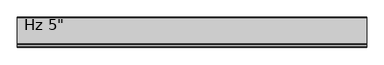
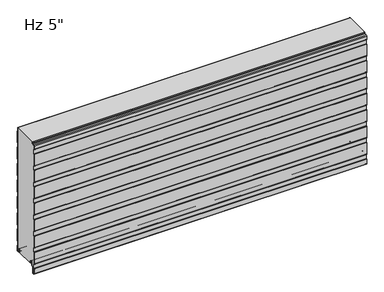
"""IFC4 building model written with IfcOpenShell, lengths in millimetres: plate geometry."""

from ifc_helpers import new_model, si_unit, point, frame, frame_2d, origin, place, context, project, spatial, polyline, circle_curve, trimmed, segment, composite_curve, outline, extrude, source, transform, mapped, element, save
from ifc_brep_helpers import plane_surface, cylinder_surface, revolved_surface, advanced_brep


def plate_9081da33(model_context):
    return source(origin(), model_context, "Body", "SolidModel", [
        advanced_brep(
        [(-730.0, -17.0015368, 2.0313088), (-730.0, -18.00154, 1.0313116), (-730.0, -19.0015313, 2.0313088), (-730.0, -19.0015314, 6.0315125), (-730.0, -18.0015368, 6.0315125), (-730.0, -18.0015368, 8.7237223), (-730.0, -14.7015411, 12.023718), (-730.0, -10.3015499, 12.023718), (-730.0, -7.0015544, 8.7237225), (-730.0, -7.0015544, -1.6962564), (-730.0, -5.2315602, -3.4662506), (-730.0, -1.0000126, -3.4662506), (-730.0, -1.0000126, 21.034026), (-730.0, -2.2002516, 22.4196686), (-730.0, -2.2002516, 41.7948349), (-730.0, -1.0000209, 43.1804679), (-730.0, -1.0000209, 97.2338833), (-730.0, -2.2002516, 98.6195162), (-730.0, -2.2002516, 117.9946825), (-730.0, -1.0000209, 119.3803155), (-730.0, -1.0000209, 173.4337309), (-730.0, -2.2002516, 174.8193638), (-730.0, -2.2002516, 194.1945301), (-730.0, -1.0000209, 195.5801631), (-730.0, -1.0000209, 249.6335785), (-730.0, -2.2002516, 251.0192114), (-730.0, -2.2002516, 270.3943777), (-730.0, -1.0000209, 271.7800107), (-730.0, -1.0000209, 325.8334261), (-730.0, -2.2002516, 327.219059), (-730.0, -2.2002516, 346.5942253), (-730.0, -1.0000209, 347.9798583), (-730.0, -1.0000209, 402.0332737), (-730.0, -2.2002516, 403.4189066), (-730.0, -2.2002516, 422.7940729), (-730.0, -1.0000209, 424.1797059), (-730.0, -1.0000209, 478.2331213), (-730.0, -2.2002516, 479.6187542), (-730.0, -2.2002516, 498.9939205), (-730.0, -1.0000209, 500.3795535), (-730.0, -1.0000209, 554.4329689), (-730.0, -2.2002516, 555.8186018), (-730.0, -2.2002516, 571.2), (-730.0, -1.2002516, 571.2), (-730.0, -1.2002516, 556.1914823), (-730.0, -0.3418094, 555.2004346), (-730.0, -2.09e-05, 554.2838177), (-730.0, -2.09e-05, 500.5287046), (-730.0, -0.3418094, 499.6120877), (-730.0, -1.2002516, 498.6210401), (-730.0, -1.2002516, 479.9916347), (-730.0, -0.3418094, 479.000587), (-730.0, -2.09e-05, 478.0839701), (-730.0, -2.09e-05, 424.328857), (-730.0, -0.3418094, 423.4122401), (-730.0, -1.2002516, 422.4211925), (-730.0, -1.2002516, 403.7917871), (-730.0, -0.3418094, 402.8007394), (-730.0, -2.09e-05, 401.8841225), (-730.0, -2.09e-05, 348.1290094), (-730.0, -0.3418094, 347.2123925), (-730.0, -1.2002516, 346.2213449), (-730.0, -1.2002516, 327.5919395), (-730.0, -0.3418094, 326.6008918), (-730.0, -2.09e-05, 325.6842749), (-730.0, -2.09e-05, 271.9291618), (-730.0, -0.3418094, 271.0125449), (-730.0, -1.2002516, 270.0214973), (-730.0, -1.2002516, 251.3920919), (-730.0, -0.3418094, 250.4010442), (-730.0, -2.09e-05, 249.4844273), (-730.0, -2.09e-05, 195.7293142), (-730.0, -0.3418094, 194.8126973), (-730.0, -1.2002516, 193.8216497), (-730.0, -1.2002516, 175.1922443), (-730.0, -0.3418094, 174.2011966), (-730.0, -2.09e-05, 173.2845797), (-730.0, -2.09e-05, 119.5294666), (-730.0, -0.3418094, 118.6128497), (-730.0, -1.2002516, 117.6218021), (-730.0, -1.2002516, 98.9923967), (-730.0, -0.3418094, 98.001349), (-730.0, -2.09e-05, 97.0847321), (-730.0, -2.09e-05, 43.329619), (-730.0, -0.3418094, 42.4130021), (-730.0, -1.2002516, 41.4219545), (-730.0, -1.2002516, 22.7925491), (-730.0, -0.3418094, 21.8015014), (-730.0, -2.09e-05, 20.8847931), (-730.0, -1.26e-05, -3.0662545), (-730.0, -1.4000087, -4.4662506), (-730.0, -5.2315602, -4.4662506), (-730.0, -8.0015544, -1.6962564), (-730.0, -8.0015544, 8.7237225), (-730.0, -10.3015499, 11.023718), (-730.0, -14.7015411, 11.023718), (-730.0, -17.0015368, 8.7237223), (730.0, -17.0015368, 2.0313088), (730.0, -17.0015368, 8.7237223), (730.0, -14.7015411, 11.023718), (730.0, -10.3015499, 11.023718), (730.0, -8.0015544, 8.7237225), (730.0, -8.0015544, -1.6962564), (730.0, -5.2315602, -4.4662506), (730.0, -1.4000087, -4.4662506), (730.0, -1.26e-05, -3.0662545), (730.0, -1.26e-05, 20.8848845), (730.0, -0.3418094, 21.8015014), (730.0, -1.2002516, 22.7925491), (730.0, -1.2002516, 41.4219545), (730.0, -0.3418094, 42.4130021), (730.0, -2.09e-05, 43.329619), (730.0, -2.09e-05, 97.0847321), (730.0, -0.3418094, 98.001349), (730.0, -1.2002516, 98.9923967), (730.0, -1.2002516, 117.6218021), (730.0, -0.3418094, 118.6128497), (730.0, -2.09e-05, 119.5294666), (730.0, -2.09e-05, 173.2845797), (730.0, -0.3418094, 174.2011966), (730.0, -1.2002516, 175.1922443), (730.0, -1.2002516, 193.8216497), (730.0, -0.3418094, 194.8126973), (730.0, -2.09e-05, 195.7293142), (730.0, -2.09e-05, 249.4844273), (730.0, -0.3418094, 250.4010442), (730.0, -1.2002516, 251.3920919), (730.0, -1.2002516, 270.0214973), (730.0, -0.3418094, 271.0125449), (730.0, -2.09e-05, 271.9291618), (730.0, -2.09e-05, 325.6842749), (730.0, -0.3418094, 326.6008918), (730.0, -1.2002516, 327.5919395), (730.0, -1.2002516, 346.2213449), (730.0, -0.3418094, 347.2123925), (730.0, -2.09e-05, 348.1290094), (730.0, -2.09e-05, 401.8841225), (730.0, -0.3418094, 402.8007394), (730.0, -1.2002516, 403.7917871), (730.0, -1.2002516, 422.4211925), (730.0, -0.3418094, 423.4122401), (730.0, -2.09e-05, 424.328857), (730.0, -2.09e-05, 478.0839701), (730.0, -0.3418094, 479.000587), (730.0, -1.2002516, 479.9916347), (730.0, -1.2002516, 498.6210401), (730.0, -0.3418094, 499.6120877), (730.0, -2.09e-05, 500.5287046), (730.0, -2.09e-05, 554.2838177), (730.0, -0.3418094, 555.2004346), (730.0, -1.2002516, 556.1914823), (730.0, -1.2002516, 571.2), (730.0, -2.2002516, 571.2), (730.0, -2.2002516, 555.8186018), (730.0, -1.0000209, 554.4329689), (730.0, -1.0000209, 500.3795535), (730.0, -2.2002516, 498.9939205), (730.0, -2.2002516, 479.6187542), (730.0, -1.0000209, 478.2331213), (730.0, -1.0000209, 424.1797059), (730.0, -2.2002516, 422.7940729), (730.0, -2.2002516, 403.4189066), (730.0, -1.0000209, 402.0332737), (730.0, -1.0000209, 347.9798583), (730.0, -2.2002516, 346.5942253), (730.0, -2.2002516, 327.219059), (730.0, -1.0000209, 325.8334261), (730.0, -1.0000209, 271.7800107), (730.0, -2.2002516, 270.3943777), (730.0, -2.2002516, 251.0192114), (730.0, -1.0000209, 249.6335785), (730.0, -1.0000209, 195.5801631), (730.0, -2.2002516, 194.1945301), (730.0, -2.2002516, 174.8193638), (730.0, -1.0000209, 173.4337309), (730.0, -1.0000209, 119.3803155), (730.0, -2.2002516, 117.9946825), (730.0, -2.2002516, 98.6195162), (730.0, -1.0000209, 97.2338833), (730.0, -1.0000209, 43.1804679), (730.0, -2.2002516, 41.7948349), (730.0, -2.2002516, 22.4196686), (730.0, -1.0000126, 21.034026), (730.0, -1.0000126, -3.4662506), (730.0, -5.2315602, -3.4662506), (730.0, -7.0015544, -1.6962564), (730.0, -7.0015544, 8.7237225), (730.0, -10.3015499, 12.023718), (730.0, -14.7015411, 12.023718), (730.0, -18.0015368, 8.7237223), (730.0, -18.0015368, 6.0315125), (730.0, -19.0015314, 6.0315125), (730.0, -19.0015314, 2.0313088), (730.0, -18.00154, 1.0313116)],
        [
            (0, 1, circle_curve(frame((-730.0, -18.0015341, 2.0313088), z_axis=(-1.0, 0.0, 0.0), x_axis=(0.0, 0.0, 1.0)), 0.9999973)),
            (1, 2, circle_curve(frame((-730.0, -18.0015341, 2.0313088), z_axis=(-1.0, 0.0, 0.0), x_axis=(0.0, 0.0, 1.0)), 0.9999972)),
            (2, 3),
            (3, 4),
            (4, 5),
            (5, 6, circle_curve(frame((-730.0, -14.7015411, 8.7237223), z_axis=(-1.0, 0.0, 0.0), x_axis=(0.0, 0.0, 1.0)), 3.2999957)),
            (6, 7),
            (7, 8, circle_curve(frame((-730.0, -10.3015499, 8.7237225), z_axis=(-1.0, 0.0, 0.0), x_axis=(0.0, 0.0, 1.0)), 3.2999955)),
            (8, 9),
            (9, 10, circle_curve(frame((-730.0, -5.2315602, -1.6962564), z_axis=(1.0, 0.0, 0.0), x_axis=(0.0, 0.0, 1.0)), 1.7699942)),
            (10, 11),
            (11, 12),
            (12, 13),
            (13, 14),
            (14, 15),
            (15, 16),
            (16, 17),
            (17, 18),
            (18, 19),
            (19, 20),
            (20, 21),
            (21, 22),
            (22, 23),
            (23, 24),
            (24, 25),
            (25, 26),
            (26, 27),
            (27, 28),
            (28, 29),
            (29, 30),
            (30, 31),
            (31, 32),
            (32, 33),
            (33, 34),
            (34, 35),
            (35, 36),
            (36, 37),
            (37, 38),
            (38, 39),
            (39, 40),
            (40, 41),
            (41, 42),
            (42, 43),
            (43, 44),
            (44, 45),
            (45, 46, circle_curve(frame((-730.0, -1.4000181, 554.2838177), z_axis=(-1.0, 0.0, 0.0), x_axis=(0.0, 0.0, 1.0)), 1.3999972)),
            (46, 47),
            (47, 48, circle_curve(frame((-730.0, -1.4000181, 500.5287046), z_axis=(-1.0, 0.0, 0.0), x_axis=(0.0, 0.0, 1.0)), 1.3999972)),
            (48, 49),
            (49, 50),
            (50, 51),
            (51, 52, circle_curve(frame((-730.0, -1.4000181, 478.0839701), z_axis=(-1.0, 0.0, 0.0), x_axis=(0.0, 0.0, 1.0)), 1.3999972)),
            (52, 53),
            (53, 54, circle_curve(frame((-730.0, -1.4000181, 424.328857), z_axis=(-1.0, 0.0, 0.0), x_axis=(0.0, 0.0, 1.0)), 1.3999972)),
            (54, 55),
            (55, 56),
            (56, 57),
            (57, 58, circle_curve(frame((-730.0, -1.4000181, 401.8841225), z_axis=(-1.0, 0.0, 0.0), x_axis=(0.0, 0.0, 1.0)), 1.3999972)),
            (58, 59),
            (59, 60, circle_curve(frame((-730.0, -1.4000181, 348.1290094), z_axis=(-1.0, 0.0, 0.0), x_axis=(0.0, 0.0, 1.0)), 1.3999972)),
            (60, 61),
            (61, 62),
            (62, 63),
            (63, 64, circle_curve(frame((-730.0, -1.4000181, 325.6842749), z_axis=(-1.0, 0.0, 0.0), x_axis=(0.0, 0.0, 1.0)), 1.3999972)),
            (64, 65),
            (65, 66, circle_curve(frame((-730.0, -1.4000181, 271.9291618), z_axis=(-1.0, 0.0, 0.0), x_axis=(0.0, 0.0, 1.0)), 1.3999972)),
            (66, 67),
            (67, 68),
            (68, 69),
            (69, 70, circle_curve(frame((-730.0, -1.4000181, 249.4844273), z_axis=(-1.0, 0.0, 0.0), x_axis=(0.0, 0.0, 1.0)), 1.3999972)),
            (70, 71),
            (71, 72, circle_curve(frame((-730.0, -1.4000181, 195.7293142), z_axis=(-1.0, 0.0, 0.0), x_axis=(0.0, 0.0, 1.0)), 1.3999972)),
            (72, 73),
            (73, 74),
            (74, 75),
            (75, 76, circle_curve(frame((-730.0, -1.4000181, 173.2845797), z_axis=(-1.0, 0.0, 0.0), x_axis=(0.0, 0.0, 1.0)), 1.3999972)),
            (76, 77),
            (77, 78, circle_curve(frame((-730.0, -1.4000181, 119.5294666), z_axis=(-1.0, 0.0, 0.0), x_axis=(0.0, 0.0, 1.0)), 1.3999972)),
            (78, 79),
            (79, 80),
            (80, 81),
            (81, 82, circle_curve(frame((-730.0, -1.4000181, 97.0847321), z_axis=(-1.0, 0.0, 0.0), x_axis=(0.0, 0.0, 1.0)), 1.3999972)),
            (82, 83),
            (83, 84, circle_curve(frame((-730.0, -1.4000181, 43.329619), z_axis=(-1.0, 0.0, 0.0), x_axis=(0.0, 0.0, 1.0)), 1.3999972)),
            (84, 85),
            (85, 86),
            (86, 87),
            (87, 88, circle_curve(frame((-730.0, -1.4000181, 20.8848845), z_axis=(-1.0, 0.0, 0.0), x_axis=(0.0, 0.0, 1.0)), 1.3999972)),
            (88, 89),
            (89, 90, circle_curve(frame((-730.0, -1.4000087, -3.0662545), z_axis=(-1.0, 0.0, 0.0), x_axis=(0.0, 0.0, 1.0)), 1.3999962)),
            (90, 91),
            (91, 92, circle_curve(frame((-730.0, -5.2315602, -1.6962564), z_axis=(-1.0, 0.0, 0.0), x_axis=(0.0, 0.0, 1.0)), 2.7699942)),
            (92, 93),
            (93, 94, circle_curve(frame((-730.0, -10.3015499, 8.7237225), z_axis=(1.0, 0.0, 0.0), x_axis=(0.0, 0.0, 1.0)), 2.2999955)),
            (94, 95),
            (95, 96, circle_curve(frame((-730.0, -14.7015411, 8.7237223), z_axis=(1.0, 0.0, 0.0), x_axis=(0.0, 0.0, 1.0)), 2.2999957)),
            (96, 0),
            (97, 98),
            (98, 99, circle_curve(frame((730.0, -14.7015411, 8.7237223), z_axis=(-1.0, 0.0, 0.0), x_axis=(0.0, 0.0, 1.0)), 2.2999957)),
            (99, 100),
            (100, 101, circle_curve(frame((730.0, -10.3015499, 8.7237225), z_axis=(-1.0, 0.0, 0.0), x_axis=(0.0, 0.0, 1.0)), 2.2999955)),
            (101, 102),
            (102, 103, circle_curve(frame((730.0, -5.2315602, -1.6962564), z_axis=(1.0, 0.0, 0.0), x_axis=(0.0, 0.0, 1.0)), 2.7699942)),
            (103, 104),
            (104, 105, circle_curve(frame((730.0, -1.4000087, -3.0662545), z_axis=(1.0, 0.0, 0.0), x_axis=(0.0, 0.0, 1.0)), 1.3999962)),
            (105, 106),
            (106, 107, circle_curve(frame((730.0, -1.4000181, 20.8848845), z_axis=(1.0, 0.0, 0.0), x_axis=(0.0, 0.0, 1.0)), 1.3999972)),
            (107, 108),
            (108, 109),
            (109, 110),
            (110, 111, circle_curve(frame((730.0, -1.4000181, 43.329619), z_axis=(1.0, 0.0, 0.0), x_axis=(0.0, 0.0, 1.0)), 1.3999972)),
            (111, 112),
            (112, 113, circle_curve(frame((730.0, -1.4000181, 97.0847321), z_axis=(1.0, 0.0, 0.0), x_axis=(0.0, 0.0, 1.0)), 1.3999972)),
            (113, 114),
            (114, 115),
            (115, 116),
            (116, 117, circle_curve(frame((730.0, -1.4000181, 119.5294666), z_axis=(1.0, 0.0, 0.0), x_axis=(0.0, 0.0, 1.0)), 1.3999972)),
            (117, 118),
            (118, 119, circle_curve(frame((730.0, -1.4000181, 173.2845797), z_axis=(1.0, 0.0, 0.0), x_axis=(0.0, 0.0, 1.0)), 1.3999972)),
            (119, 120),
            (120, 121),
            (121, 122),
            (122, 123, circle_curve(frame((730.0, -1.4000181, 195.7293142), z_axis=(1.0, 0.0, 0.0), x_axis=(0.0, 0.0, 1.0)), 1.3999972)),
            (123, 124),
            (124, 125, circle_curve(frame((730.0, -1.4000181, 249.4844273), z_axis=(1.0, 0.0, 0.0), x_axis=(0.0, 0.0, 1.0)), 1.3999972)),
            (125, 126),
            (126, 127),
            (127, 128),
            (128, 129, circle_curve(frame((730.0, -1.4000181, 271.9291618), z_axis=(1.0, 0.0, 0.0), x_axis=(0.0, 0.0, 1.0)), 1.3999972)),
            (129, 130),
            (130, 131, circle_curve(frame((730.0, -1.4000181, 325.6842749), z_axis=(1.0, 0.0, 0.0), x_axis=(0.0, 0.0, 1.0)), 1.3999972)),
            (131, 132),
            (132, 133),
            (133, 134),
            (134, 135, circle_curve(frame((730.0, -1.4000181, 348.1290094), z_axis=(1.0, 0.0, 0.0), x_axis=(0.0, 0.0, 1.0)), 1.3999972)),
            (135, 136),
            (136, 137, circle_curve(frame((730.0, -1.4000181, 401.8841225), z_axis=(1.0, 0.0, 0.0), x_axis=(0.0, 0.0, 1.0)), 1.3999972)),
            (137, 138),
            (138, 139),
            (139, 140),
            (140, 141, circle_curve(frame((730.0, -1.4000181, 424.328857), z_axis=(1.0, 0.0, 0.0), x_axis=(0.0, 0.0, 1.0)), 1.3999972)),
            (141, 142),
            (142, 143, circle_curve(frame((730.0, -1.4000181, 478.0839701), z_axis=(1.0, 0.0, 0.0), x_axis=(0.0, 0.0, 1.0)), 1.3999972)),
            (143, 144),
            (144, 145),
            (145, 146),
            (146, 147, circle_curve(frame((730.0, -1.4000181, 500.5287046), z_axis=(1.0, 0.0, 0.0), x_axis=(0.0, 0.0, 1.0)), 1.3999972)),
            (147, 148),
            (148, 149, circle_curve(frame((730.0, -1.4000181, 554.2838177), z_axis=(1.0, 0.0, 0.0), x_axis=(0.0, 0.0, 1.0)), 1.3999972)),
            (149, 150),
            (150, 151),
            (151, 152),
            (152, 153),
            (153, 154),
            (154, 155),
            (155, 156),
            (156, 157),
            (157, 158),
            (158, 159),
            (159, 160),
            (160, 161),
            (161, 162),
            (162, 163),
            (163, 164),
            (164, 165),
            (165, 166),
            (166, 167),
            (167, 168),
            (168, 169),
            (169, 170),
            (170, 171),
            (171, 172),
            (172, 173),
            (173, 174),
            (174, 175),
            (175, 176),
            (176, 177),
            (177, 178),
            (178, 179),
            (179, 180),
            (180, 181),
            (181, 182),
            (182, 183),
            (183, 184),
            (184, 185, circle_curve(frame((730.0, -5.2315602, -1.6962564), z_axis=(-1.0, 0.0, 0.0), x_axis=(0.0, 0.0, 1.0)), 1.7699942)),
            (185, 186),
            (186, 187, circle_curve(frame((730.0, -10.3015499, 8.7237225), z_axis=(1.0, 0.0, 0.0), x_axis=(0.0, 0.0, 1.0)), 3.2999955)),
            (187, 188),
            (188, 189, circle_curve(frame((730.0, -14.7015411, 8.7237223), z_axis=(1.0, 0.0, 0.0), x_axis=(0.0, 0.0, 1.0)), 3.2999957)),
            (189, 190),
            (190, 191),
            (191, 192),
            (192, 193, circle_curve(frame((730.0, -18.0015341, 2.0313088), z_axis=(1.0, 0.0, 0.0), x_axis=(0.0, 0.0, 1.0)), 0.9999972)),
            (193, 97, circle_curve(frame((730.0, -18.0015341, 2.0313088), z_axis=(1.0, 0.0, 0.0), x_axis=(0.0, 0.0, 1.0)), 0.9999973)),
            (96, 98),
            (97, 0),
            (95, 99),
            (94, 100),
            (93, 101),
            (92, 102),
            (91, 103),
            (90, 104),
            (89, 105),
            (88, 106),
            (70, 124),
            (123, 71),
            (87, 107),
            (86, 108),
            (85, 109),
            (83, 111),
            (110, 84),
            (81, 113),
            (112, 82),
            (66, 128),
            (127, 67),
            (122, 72),
            (121, 73),
            (76, 118),
            (117, 77),
            (69, 125),
            (68, 126),
            (65, 129),
            (116, 78),
            (79, 115),
            (114, 80),
            (75, 119),
            (74, 120),
            (2, 192),
            (191, 3),
            (1, 193),
            (64, 130),
            (63, 131),
            (62, 132),
            (61, 133),
            (60, 134),
            (59, 135),
            (58, 136),
            (31, 163),
            (162, 32),
            (30, 164),
            (29, 165),
            (28, 166),
            (27, 167),
            (26, 168),
            (25, 169),
            (24, 170),
            (23, 171),
            (22, 172),
            (21, 173),
            (20, 174),
            (19, 175),
            (18, 176),
            (17, 177),
            (16, 178),
            (15, 179),
            (14, 180),
            (13, 181),
            (12, 182),
            (11, 183),
            (10, 184),
            (9, 185),
            (8, 186),
            (7, 187),
            (6, 188),
            (5, 189),
            (4, 190),
            (42, 152),
            (151, 43),
            (57, 137),
            (56, 138),
            (54, 140),
            (139, 55),
            (51, 143),
            (142, 52),
            (50, 144),
            (48, 146),
            (145, 49),
            (45, 149),
            (148, 46),
            (44, 150),
            (41, 153),
            (40, 154),
            (39, 155),
            (38, 156),
            (53, 141),
            (47, 147),
            (37, 157),
            (36, 158),
            (35, 159),
            (34, 160),
            (33, 161),
        ],
        [
            plane_surface(frame((-730.0, -2.09e-05, 304.8), z_axis=(-1.0, 0.0, 0.0), x_axis=(0.0, 1.0, 0.0))),
            plane_surface(frame((730.0, -2.09e-05, 304.8), z_axis=(1.0, 0.0, 0.0), x_axis=(0.0, 1.0, 0.0))),
            plane_surface(frame((-730.0, -17.0015368, 2.0313088), z_axis=(0.0, 1.0, 0.0), x_axis=(1.0, 0.0, 0.0))),
            revolved_surface(polyline([(730.0, -14.7015411, 11.023718), (-730.0, -14.7015411, 11.023718)]), (-730.0, -14.7015411, 8.7237223), (1.0, 0.0, 0.0)),
            plane_surface(frame((-730.0, -14.7015411, 11.023718), z_axis=(0.0, 0.0, -1.0), x_axis=(1.0, 0.0, 0.0))),
            revolved_surface(polyline([(730.0, -10.3015499, 11.023717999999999), (-730.0, -10.3015499, 11.023717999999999)]), (-730.0, -10.3015499, 8.7237225), (1.0, 0.0, 0.0)),
            plane_surface(frame((-730.0, -8.0015544, 8.7237225), z_axis=(0.0, -1.0, 0.0), x_axis=(1.0, 0.0, 0.0))),
            cylinder_surface(frame((-730.0, -5.2315602, -1.6962564), z_axis=(-1.0, 0.0, 0.0), x_axis=(0.0, 0.0, 1.0)), 2.7699942),
            plane_surface(frame((-730.0, -5.2315602, -4.4662506), z_axis=(0.0, 0.0, -1.0), x_axis=(1.0, 0.0, 0.0))),
            cylinder_surface(frame((-730.0, -1.4000087, -3.0662545), z_axis=(-1.0, 0.0, 0.0), x_axis=(0.0, 0.0, 1.0)), 1.3999962),
            plane_surface(frame((-730.0, -1.26e-05, -3.0662545), z_axis=(0.0, 1.0, 0.0), x_axis=(1.0, 0.0, 0.0))),
            plane_surface(frame((-730.0, -2.09e-05, 195.7293142), z_axis=(0.0, 1.0, 0.0), x_axis=(1.0, 0.0, 0.0))),
            cylinder_surface(frame((-730.0, -1.4000181, 20.8848845), z_axis=(-1.0, 0.0, 0.0), x_axis=(0.0, 0.0, 1.0)), 1.3999972),
            plane_surface(frame((-730.0, -0.3418094, 21.8015014), z_axis=(0.0, 0.755864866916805, 0.6547276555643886), x_axis=(1.0, 0.0, 0.0))),
            plane_surface(frame((-730.0, -1.2002516, 32.1072518), z_axis=(0.0, 1.0, 0.0), x_axis=(1.0, 0.0, 0.0))),
            cylinder_surface(frame((-730.0, -1.4000181, 43.329619), z_axis=(-1.0, 0.0, 0.0), x_axis=(0.0, 0.0, 1.0)), 1.3999972),
            plane_surface(frame((-730.0, -1.2002516, 41.4219545), z_axis=(0.0, 0.755864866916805, -0.6547276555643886), x_axis=(1.0, 0.0, 0.0))),
            cylinder_surface(frame((-730.0, -1.4000181, 97.0847321), z_axis=(-1.0, 0.0, 0.0), x_axis=(0.0, 0.0, 1.0)), 1.3999972),
            plane_surface(frame((-730.0, -1.2002516, 270.0214973), z_axis=(0.0, 0.755864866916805, -0.6547276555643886), x_axis=(1.0, 0.0, 0.0))),
            cylinder_surface(frame((-730.0, -1.4000181, 195.7293142), z_axis=(-1.0, 0.0, 0.0), x_axis=(0.0, 0.0, 1.0)), 1.3999972),
            plane_surface(frame((-730.0, -1.2002516, 193.8216497), z_axis=(0.0, 0.755864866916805, -0.6547276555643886), x_axis=(1.0, 0.0, 0.0))),
            plane_surface(frame((-730.0, -2.09e-05, 119.5294666), z_axis=(0.0, 1.0, 0.0), x_axis=(1.0, 0.0, 0.0))),
            cylinder_surface(frame((-730.0, -1.4000181, 249.4844273), z_axis=(-1.0, 0.0, 0.0), x_axis=(0.0, 0.0, 1.0)), 1.3999972),
            plane_surface(frame((-730.0, -0.3418094, 250.4010442), z_axis=(0.0, 0.755864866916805, 0.6547276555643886), x_axis=(1.0, 0.0, 0.0))),
            plane_surface(frame((-730.0, -1.2002516, 260.7067946), z_axis=(0.0, 1.0, 0.0), x_axis=(1.0, 0.0, 0.0))),
            cylinder_surface(frame((-730.0, -1.4000181, 271.9291618), z_axis=(-1.0, 0.0, 0.0), x_axis=(0.0, 0.0, 1.0)), 1.3999972),
            cylinder_surface(frame((-730.0, -1.4000181, 119.5294666), z_axis=(-1.0, 0.0, 0.0), x_axis=(0.0, 0.0, 1.0)), 1.3999972),
            plane_surface(frame((-730.0, -1.2002516, 108.3070994), z_axis=(0.0, 1.0, 0.0), x_axis=(1.0, 0.0, 0.0))),
            plane_surface(frame((-730.0, -0.3418094, 98.001349), z_axis=(0.0, 0.755864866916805, 0.6547276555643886), x_axis=(1.0, 0.0, 0.0))),
            plane_surface(frame((-730.0, -1.2002516, 117.6218021), z_axis=(0.0, 0.755864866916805, -0.6547276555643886), x_axis=(1.0, 0.0, 0.0))),
            plane_surface(frame((-730.0, -2.09e-05, 43.329619), z_axis=(0.0, 1.0, 0.0), x_axis=(1.0, 0.0, 0.0))),
            cylinder_surface(frame((-730.0, -1.4000181, 173.2845797), z_axis=(-1.0, 0.0, 0.0), x_axis=(0.0, 0.0, 1.0)), 1.3999972),
            plane_surface(frame((-730.0, -0.3418094, 174.2011966), z_axis=(0.0, 0.755864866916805, 0.6547276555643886), x_axis=(1.0, 0.0, 0.0))),
            plane_surface(frame((-730.0, -1.2002516, 184.506947), z_axis=(0.0, 1.0, 0.0), x_axis=(1.0, 0.0, 0.0))),
            plane_surface(frame((-730.0, -19.0015314, 6.0315125), z_axis=(0.0, -1.0, 0.0), x_axis=(1.0, 0.0, 0.0))),
            cylinder_surface(frame((-730.0, -18.0015341, 2.0313088), z_axis=(-1.0, 0.0, 0.0), x_axis=(0.0, 0.0, 1.0)), 0.9999972),
            cylinder_surface(frame((-730.0, -18.0015341, 2.0313088), z_axis=(-1.0, 0.0, 0.0), x_axis=(0.0, 0.0, 1.0)), 0.9999973),
            plane_surface(frame((-730.0, -2.09e-05, 271.9291618), z_axis=(0.0, 1.0, 0.0), x_axis=(1.0, 0.0, 0.0))),
            cylinder_surface(frame((-730.0, -1.4000181, 325.6842749), z_axis=(-1.0, 0.0, 0.0), x_axis=(0.0, 0.0, 1.0)), 1.3999972),
            plane_surface(frame((-730.0, -0.3418094, 326.6008918), z_axis=(0.0, 0.755864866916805, 0.6547276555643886), x_axis=(1.0, 0.0, 0.0))),
            plane_surface(frame((-730.0, -1.2002516, 336.9066422), z_axis=(0.0, 1.0, 0.0), x_axis=(1.0, 0.0, 0.0))),
            plane_surface(frame((-730.0, -1.2002516, 346.2213449), z_axis=(0.0, 0.755864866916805, -0.6547276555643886), x_axis=(1.0, 0.0, 0.0))),
            cylinder_surface(frame((-730.0, -1.4000181, 348.1290094), z_axis=(-1.0, 0.0, 0.0), x_axis=(0.0, 0.0, 1.0)), 1.3999972),
            plane_surface(frame((-730.0, -2.09e-05, 348.1290094), z_axis=(0.0, 1.0, 0.0), x_axis=(1.0, 0.0, 0.0))),
            plane_surface(frame((-730.0, -1.0000209, 402.0332737), z_axis=(0.0, -1.0, 0.0), x_axis=(1.0, 0.0, 0.0))),
            plane_surface(frame((-730.0, -1.0000209, 347.9798583), z_axis=(0.0, -0.755864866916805, 0.6547276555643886), x_axis=(1.0, 0.0, 0.0))),
            plane_surface(frame((-730.0, -2.2002516, 346.5942253), z_axis=(0.0, -1.0, 0.0), x_axis=(1.0, 0.0, 0.0))),
            plane_surface(frame((-730.0, -2.2002516, 327.219059), z_axis=(0.0, -0.755864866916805, -0.6547276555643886), x_axis=(1.0, 0.0, 0.0))),
            plane_surface(frame((-730.0, -1.0000209, 325.8334261), z_axis=(0.0, -1.0, 0.0), x_axis=(1.0, 0.0, 0.0))),
            plane_surface(frame((-730.0, -1.0000209, 271.7800107), z_axis=(0.0, -0.755864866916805, 0.6547276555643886), x_axis=(1.0, 0.0, 0.0))),
            plane_surface(frame((-730.0, -2.2002516, 270.3943777), z_axis=(0.0, -1.0, 0.0), x_axis=(1.0, 0.0, 0.0))),
            plane_surface(frame((-730.0, -2.2002516, 251.0192114), z_axis=(0.0, -0.755864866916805, -0.6547276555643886), x_axis=(1.0, 0.0, 0.0))),
            plane_surface(frame((-730.0, -1.0000209, 249.6335785), z_axis=(0.0, -1.0, 0.0), x_axis=(1.0, 0.0, 0.0))),
            plane_surface(frame((-730.0, -1.0000209, 195.5801631), z_axis=(0.0, -0.755864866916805, 0.6547276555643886), x_axis=(1.0, 0.0, 0.0))),
            plane_surface(frame((-730.0, -2.2002516, 194.1945301), z_axis=(0.0, -1.0, 0.0), x_axis=(1.0, 0.0, 0.0))),
            plane_surface(frame((-730.0, -2.2002516, 174.8193638), z_axis=(0.0, -0.755864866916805, -0.6547276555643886), x_axis=(1.0, 0.0, 0.0))),
            plane_surface(frame((-730.0, -1.0000209, 173.4337309), z_axis=(0.0, -1.0, 0.0), x_axis=(1.0, 0.0, 0.0))),
            plane_surface(frame((-730.0, -1.0000209, 119.3803155), z_axis=(0.0, -0.755864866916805, 0.6547276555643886), x_axis=(1.0, 0.0, 0.0))),
            plane_surface(frame((-730.0, -2.2002516, 117.9946825), z_axis=(0.0, -1.0, 0.0), x_axis=(1.0, 0.0, 0.0))),
            plane_surface(frame((-730.0, -2.2002516, 98.6195162), z_axis=(0.0, -0.755864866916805, -0.6547276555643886), x_axis=(1.0, 0.0, 0.0))),
            plane_surface(frame((-730.0, -1.0000209, 97.2338833), z_axis=(0.0, -1.0, 0.0), x_axis=(1.0, 0.0, 0.0))),
            plane_surface(frame((-730.0, -1.0000209, 43.1804679), z_axis=(0.0, -0.755864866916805, 0.6547276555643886), x_axis=(1.0, 0.0, 0.0))),
            plane_surface(frame((-730.0, -2.2002516, 41.7948349), z_axis=(0.0, -1.0, 0.0), x_axis=(1.0, 0.0, 0.0))),
            plane_surface(frame((-730.0, -2.2002516, 22.4196686), z_axis=(0.0, -0.755864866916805, -0.6547276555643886), x_axis=(1.0, 0.0, 0.0))),
            plane_surface(frame((-730.0, -1.0000126, 21.034026), z_axis=(0.0, -1.0, 0.0), x_axis=(1.0, 0.0, 0.0))),
            plane_surface(frame((-730.0, -1.0000126, -3.4662506), z_axis=(0.0, 0.0, 1.0), x_axis=(1.0, 0.0, 0.0))),
            revolved_surface(polyline([(730.0, -5.2315602, 0.07373779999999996), (-730.0, -5.2315602, 0.07373779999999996)]), (-730.0, -5.2315602, -1.6962564), (1.0, 0.0, 0.0)),
            plane_surface(frame((-730.0, -7.0015544, -1.6962564), z_axis=(0.0, 1.0, 0.0), x_axis=(1.0, 0.0, 0.0))),
            cylinder_surface(frame((-730.0, -10.3015499, 8.7237225), z_axis=(-1.0, 0.0, 0.0), x_axis=(0.0, 0.0, 1.0)), 3.2999955),
            plane_surface(frame((-730.0, -10.3015499, 12.023718), z_axis=(0.0, 0.0, 1.0), x_axis=(1.0, 0.0, 0.0))),
            cylinder_surface(frame((-730.0, -14.7015411, 8.7237223), z_axis=(-1.0, 0.0, 0.0), x_axis=(0.0, 0.0, 1.0)), 3.2999957),
            plane_surface(frame((-730.0, -18.0015368, 8.7237223), z_axis=(0.0, -1.0, 0.0), x_axis=(1.0, 0.0, 0.0))),
            plane_surface(frame((-730.0, -18.0015368, 6.0315125), z_axis=(0.0, 0.0, 1.0), x_axis=(1.0, 0.0, 0.0))),
            plane_surface(frame((730.0, 9.9999791, 571.2), z_axis=(0.0, 0.0, 1.0), x_axis=(-1.0, 0.0, 0.0))),
            cylinder_surface(frame((-730.0, -1.4000181, 401.8841225), z_axis=(-1.0, 0.0, 0.0), x_axis=(0.0, 0.0, 1.0)), 1.3999972),
            plane_surface(frame((-730.0, -0.3418094, 402.8007394), z_axis=(0.0, 0.755864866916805, 0.6547276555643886), x_axis=(1.0, 0.0, 0.0))),
            plane_surface(frame((-730.0, -1.2002516, 422.4211925), z_axis=(0.0, 0.755864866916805, -0.6547276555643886), x_axis=(1.0, 0.0, 0.0))),
            cylinder_surface(frame((-730.0, -1.4000181, 478.0839701), z_axis=(-1.0, 0.0, 0.0), x_axis=(0.0, 0.0, 1.0)), 1.3999972),
            plane_surface(frame((-730.0, -0.3418094, 479.000587), z_axis=(0.0, 0.755864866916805, 0.6547276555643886), x_axis=(1.0, 0.0, 0.0))),
            plane_surface(frame((-730.0, -1.2002516, 498.6210401), z_axis=(0.0, 0.755864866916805, -0.6547276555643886), x_axis=(1.0, 0.0, 0.0))),
            cylinder_surface(frame((-730.0, -1.4000181, 554.2838177), z_axis=(-1.0, 0.0, 0.0), x_axis=(0.0, 0.0, 1.0)), 1.3999972),
            plane_surface(frame((-730.0, -0.3418094, 555.2004346), z_axis=(0.0, 0.755864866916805, 0.6547276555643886), x_axis=(1.0, 0.0, 0.0))),
            plane_surface(frame((-730.0, -2.2002516, 575.1937681), z_axis=(0.0, -1.0, 0.0), x_axis=(1.0, 0.0, 0.0))),
            plane_surface(frame((-730.0, -2.2002516, 555.8186018), z_axis=(0.0, -0.755864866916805, -0.6547276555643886), x_axis=(1.0, 0.0, 0.0))),
            plane_surface(frame((-730.0, -1.0000209, 554.4329689), z_axis=(0.0, -1.0, 0.0), x_axis=(1.0, 0.0, 0.0))),
            plane_surface(frame((-730.0, -1.0000209, 500.3795535), z_axis=(0.0, -0.755864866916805, 0.6547276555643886), x_axis=(1.0, 0.0, 0.0))),
            plane_surface(frame((-730.0, -1.2002516, 413.1064898), z_axis=(0.0, 1.0, 0.0), x_axis=(1.0, 0.0, 0.0))),
            cylinder_surface(frame((-730.0, -1.4000181, 424.328857), z_axis=(-1.0, 0.0, 0.0), x_axis=(0.0, 0.0, 1.0)), 1.3999972),
            plane_surface(frame((-730.0, -2.09e-05, 424.328857), z_axis=(0.0, 1.0, 0.0), x_axis=(1.0, 0.0, 0.0))),
            plane_surface(frame((-730.0, -1.2002516, 489.3063374), z_axis=(0.0, 1.0, 0.0), x_axis=(1.0, 0.0, 0.0))),
            cylinder_surface(frame((-730.0, -1.4000181, 500.5287046), z_axis=(-1.0, 0.0, 0.0), x_axis=(0.0, 0.0, 1.0)), 1.3999972),
            plane_surface(frame((-730.0, -2.09e-05, 500.5287046), z_axis=(0.0, 1.0, 0.0), x_axis=(1.0, 0.0, 0.0))),
            plane_surface(frame((-730.0, -1.2002516, 565.506185), z_axis=(0.0, 1.0, 0.0), x_axis=(1.0, 0.0, 0.0))),
            plane_surface(frame((-730.0, -2.2002516, 498.9939205), z_axis=(0.0, -1.0, 0.0), x_axis=(1.0, 0.0, 0.0))),
            plane_surface(frame((-730.0, -2.2002516, 479.6187542), z_axis=(0.0, -0.755864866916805, -0.6547276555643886), x_axis=(1.0, 0.0, 0.0))),
            plane_surface(frame((-730.0, -1.0000209, 478.2331213), z_axis=(0.0, -1.0, 0.0), x_axis=(1.0, 0.0, 0.0))),
            plane_surface(frame((-730.0, -1.0000209, 424.1797059), z_axis=(0.0, -0.755864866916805, 0.6547276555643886), x_axis=(1.0, 0.0, 0.0))),
            plane_surface(frame((-730.0, -2.2002516, 422.7940729), z_axis=(0.0, -1.0, 0.0), x_axis=(1.0, 0.0, 0.0))),
            plane_surface(frame((-730.0, -2.2002516, 403.4189066), z_axis=(0.0, -0.755864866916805, -0.6547276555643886), x_axis=(1.0, 0.0, 0.0))),
        ],
        [
            (0, [[1, 2, 3, 4, 5, 6, 7, 8, 9, 10, 11, 12, 13, 14, 15, 16, 17, 18, 19, 20, 21, 22, 23, 24, 25, 26, 27, 28, 29, 30, 31, 32, 33, 34, 35, 36, 37, 38, 39, 40, 41, 42, 43, 44, 45, 46, 47, 48, 49, 50, 51, 52, 53, 54, 55, 56, 57, 58, 59, 60, 61, 62, 63, 64, 65, 66, 67, 68, 69, 70, 71, 72, 73, 74, 75, 76, 77, 78, 79, 80, 81, 82, 83, 84, 85, 86, 87, 88, 89, 90, 91, 92, 93, 94, 95, 96, 97]]),
            (1, [[98, 99, 100, 101, 102, 103, 104, 105, 106, 107, 108, 109, 110, 111, 112, 113, 114, 115, 116, 117, 118, 119, 120, 121, 122, 123, 124, 125, 126, 127, 128, 129, 130, 131, 132, 133, 134, 135, 136, 137, 138, 139, 140, 141, 142, 143, 144, 145, 146, 147, 148, 149, 150, 151, 152, 153, 154, 155, 156, 157, 158, 159, 160, 161, 162, 163, 164, 165, 166, 167, 168, 169, 170, 171, 172, 173, 174, 175, 176, 177, 178, 179, 180, 181, 182, 183, 184, 185, 186, 187, 188, 189, 190, 191, 192, 193, 194]]),
            (2, [[195, -98, 196, -97]]),
            (3, [[197, -99, -195, -96]]),
            (4, [[198, -100, -197, -95]]),
            (5, [[199, -101, -198, -94]]),
            (6, [[200, -102, -199, -93]]),
            (7, [[201, -103, -200, -92]]),
            (8, [[202, -104, -201, -91]]),
            (9, [[203, -105, -202, -90]]),
            (10, [[204, -106, -203, -89]]),
            (11, [[205, -124, 206, -71]]),
            (12, [[207, -107, -204, -88]]),
            (13, [[208, -108, -207, -87]]),
            (14, [[209, -109, -208, -86]]),
            (15, [[210, -111, 211, -84]]),
            (16, [[-211, -110, -209, -85]]),
            (17, [[212, -113, 213, -82]]),
            (18, [[214, -128, 215, -67]]),
            (19, [[-206, -123, 216, -72]]),
            (20, [[-216, -122, 217, -73]]),
            (21, [[218, -118, 219, -77]]),
            (22, [[220, -125, -205, -70]]),
            (23, [[221, -126, -220, -69]]),
            (24, [[-215, -127, -221, -68]]),
            (25, [[222, -129, -214, -66]]),
            (26, [[-219, -117, 223, -78]]),
            (27, [[224, -115, 225, -80]]),
            (28, [[-225, -114, -212, -81]]),
            (29, [[-223, -116, -224, -79]]),
            (30, [[-213, -112, -210, -83]]),
            (31, [[226, -119, -218, -76]]),
            (32, [[227, -120, -226, -75]]),
            (33, [[-217, -121, -227, -74]]),
            (34, [[228, -192, 229, -3]]),
            (35, [[230, -193, -228, -2]]),
            (36, [[-196, -194, -230, -1]]),
            (37, [[231, -130, -222, -65]]),
            (38, [[232, -131, -231, -64]]),
            (39, [[233, -132, -232, -63]]),
            (40, [[234, -133, -233, -62]]),
            (41, [[235, -134, -234, -61]]),
            (42, [[236, -135, -235, -60]]),
            (43, [[237, -136, -236, -59]]),
            (44, [[238, -163, 239, -32]]),
            (45, [[240, -164, -238, -31]]),
            (46, [[241, -165, -240, -30]]),
            (47, [[242, -166, -241, -29]]),
            (48, [[243, -167, -242, -28]]),
            (49, [[244, -168, -243, -27]]),
            (50, [[245, -169, -244, -26]]),
            (51, [[246, -170, -245, -25]]),
            (52, [[247, -171, -246, -24]]),
            (53, [[248, -172, -247, -23]]),
            (54, [[249, -173, -248, -22]]),
            (55, [[250, -174, -249, -21]]),
            (56, [[251, -175, -250, -20]]),
            (57, [[252, -176, -251, -19]]),
            (58, [[253, -177, -252, -18]]),
            (59, [[254, -178, -253, -17]]),
            (60, [[255, -179, -254, -16]]),
            (61, [[256, -180, -255, -15]]),
            (62, [[257, -181, -256, -14]]),
            (63, [[258, -182, -257, -13]]),
            (64, [[259, -183, -258, -12]]),
            (65, [[260, -184, -259, -11]]),
            (66, [[261, -185, -260, -10]]),
            (67, [[262, -186, -261, -9]]),
            (68, [[263, -187, -262, -8]]),
            (69, [[264, -188, -263, -7]]),
            (70, [[265, -189, -264, -6]]),
            (71, [[266, -190, -265, -5]]),
            (72, [[-229, -191, -266, -4]]),
            (73, [[267, -152, 268, -43]]),
            (74, [[269, -137, -237, -58]]),
            (75, [[270, -138, -269, -57]]),
            (76, [[271, -140, 272, -55]]),
            (77, [[273, -143, 274, -52]]),
            (78, [[275, -144, -273, -51]]),
            (79, [[276, -146, 277, -49]]),
            (80, [[278, -149, 279, -46]]),
            (81, [[280, -150, -278, -45]]),
            (82, [[-153, -267, -42, 281]]),
            (83, [[282, -154, -281, -41]]),
            (84, [[283, -155, -282, -40]]),
            (85, [[284, -156, -283, -39]]),
            (86, [[-272, -139, -270, -56]]),
            (87, [[285, -141, -271, -54]]),
            (88, [[-274, -142, -285, -53]]),
            (89, [[-277, -145, -275, -50]]),
            (90, [[286, -147, -276, -48]]),
            (91, [[-279, -148, -286, -47]]),
            (92, [[-44, -268, -151, -280]]),
            (93, [[287, -157, -284, -38]]),
            (94, [[288, -158, -287, -37]]),
            (95, [[289, -159, -288, -36]]),
            (96, [[290, -160, -289, -35]]),
            (97, [[291, -161, -290, -34]]),
            (98, [[-239, -162, -291, -33]]),
        ],
    ),
        extrude(outline(composite_curve([segment(trimmed(circle_curve(frame_2d((-125.5998926, -10.6415934)), 1.3998661), [point((-126.9997587, -10.6415934))], [point((-126.5325165, -9.5976403))], False, "CARTESIAN"), True, "CONTINUOUS"), segment(polyline([(-126.5325165, -9.5976403), (-125.7997902, -8.8649141), (-125.7997902, 10.0260713), (-126.5327558, 10.7590369)]), True, "CONTINUOUS"), segment(trimmed(circle_curve(frame_2d((-125.6000446, 11.8030877)), 1.3999972), [point((-126.5327558, 10.7590369))], [point((-127.0000209, 11.810741))], False, "CARTESIAN"), True, "CONTINUOUS"), segment(polyline([(-127.0000209, 11.810741), (-127.0000209, 65.5582542)]), True, "CONTINUOUS"), segment(trimmed(circle_curve(frame_2d((-125.6000237, 65.5582542)), 1.3999972), [point((-127.0000209, 65.5582542))], [point((-126.5327349, 66.602305))], False, "CARTESIAN"), True, "CONTINUOUS"), segment(polyline([(-126.5327349, 66.602305), (-125.7997902, 67.3352497), (-125.7997902, 86.2259189), (-126.5327558, 86.9588845)]), True, "CONTINUOUS"), segment(trimmed(circle_curve(frame_2d((-125.6000446, 88.0029353)), 1.3999972), [point((-126.5327558, 86.9588845))], [point((-127.0000209, 88.0105886))], False, "CARTESIAN"), True, "CONTINUOUS"), segment(polyline([(-127.0000209, 88.0105886), (-127.0000209, 141.7581018)]), True, "CONTINUOUS"), segment(trimmed(circle_curve(frame_2d((-125.6000237, 141.7581018)), 1.3999972), [point((-127.0000209, 141.7581018))], [point((-126.5327349, 142.8021526))], False, "CARTESIAN"), True, "CONTINUOUS"), segment(polyline([(-126.5327349, 142.8021526), (-125.7997902, 143.5350973), (-125.7997902, 162.4257665), (-126.5327558, 163.1587321)]), True, "CONTINUOUS"), segment(trimmed(circle_curve(frame_2d((-125.6000446, 164.2027829)), 1.3999972), [point((-126.5327558, 163.1587321))], [point((-127.0000209, 164.2104362))], False, "CARTESIAN"), True, "CONTINUOUS"), segment(polyline([(-127.0000209, 164.2104362), (-127.0000209, 217.9579494)]), True, "CONTINUOUS"), segment(trimmed(circle_curve(frame_2d((-125.6000237, 217.9579494)), 1.3999972), [point((-127.0000209, 217.9579494))], [point((-126.5327349, 219.0020002))], False, "CARTESIAN"), True, "CONTINUOUS"), segment(polyline([(-126.5327349, 219.0020002), (-125.7997902, 219.7349449), (-125.7997902, 238.6256141), (-126.5327558, 239.3585797)]), True, "CONTINUOUS"), segment(trimmed(circle_curve(frame_2d((-125.6000446, 240.4026305)), 1.3999972), [point((-126.5327558, 239.3585797))], [point((-127.0000209, 240.4102838))], False, "CARTESIAN"), True, "CONTINUOUS"), segment(polyline([(-127.0000209, 240.4102838), (-127.0000209, 294.157797)]), True, "CONTINUOUS"), segment(trimmed(circle_curve(frame_2d((-125.6000237, 294.157797)), 1.3999972), [point((-127.0000209, 294.157797))], [point((-126.5327349, 295.2018478))], False, "CARTESIAN"), True, "CONTINUOUS"), segment(polyline([(-126.5327349, 295.2018478), (-125.7997902, 295.9347925), (-125.7997902, 314.8254617), (-126.5327558, 315.5584273)]), True, "CONTINUOUS"), segment(trimmed(circle_curve(frame_2d((-125.6000446, 316.6024781)), 1.3999972), [point((-126.5327558, 315.5584273))], [point((-127.0000209, 316.6101314))], False, "CARTESIAN"), True, "CONTINUOUS"), segment(polyline([(-127.0000209, 316.6101314), (-127.0000209, 370.3576446)]), True, "CONTINUOUS"), segment(trimmed(circle_curve(frame_2d((-125.6000237, 370.3576446)), 1.3999972), [point((-127.0000209, 370.3576446))], [point((-126.5327349, 371.4016954))], False, "CARTESIAN"), True, "CONTINUOUS"), segment(polyline([(-126.5327349, 371.4016954), (-125.7997902, 372.1346401), (-125.7997902, 391.0253093), (-126.5327558, 391.7582749)]), True, "CONTINUOUS"), segment(trimmed(circle_curve(frame_2d((-125.6000446, 392.8023257)), 1.3999972), [point((-126.5327558, 391.7582749))], [point((-127.0000209, 392.809979))], False, "CARTESIAN"), True, "CONTINUOUS"), segment(polyline([(-127.0000209, 392.809979), (-127.0000209, 446.5574922)]), True, "CONTINUOUS"), segment(trimmed(circle_curve(frame_2d((-125.6000237, 446.5574922)), 1.3999972), [point((-127.0000209, 446.5574922))], [point((-126.5327349, 447.601543))], False, "CARTESIAN"), True, "CONTINUOUS"), segment(polyline([(-126.5327349, 447.601543), (-125.7997902, 448.3344877), (-125.7997902, 467.2251569), (-126.5327558, 467.9581225)]), True, "CONTINUOUS"), segment(trimmed(circle_curve(frame_2d((-125.6000446, 469.0021733)), 1.3999972), [point((-126.5327558, 467.9581225))], [point((-127.0000209, 469.0098266))], False, "CARTESIAN"), True, "CONTINUOUS"), segment(polyline([(-127.0000209, 469.0098266), (-127.0000209, 522.7573398)]), True, "CONTINUOUS"), segment(trimmed(circle_curve(frame_2d((-125.6000237, 522.7573398)), 1.3999972), [point((-127.0000209, 522.7573398))], [point((-126.5327349, 523.8013906))], False, "CARTESIAN"), True, "CONTINUOUS"), segment(polyline([(-126.5327349, 523.8013906), (-125.7997902, 524.5343353), (-125.7997902, 543.4250045), (-126.5327558, 544.1579701)]), True, "CONTINUOUS"), segment(trimmed(circle_curve(frame_2d((-125.6000446, 545.2020209)), 1.3999972), [point((-126.5327558, 544.1579701))], [point((-126.9991193, 545.2528361))], False, "CARTESIAN"), True, "CONTINUOUS"), segment(polyline([(-126.9991193, 545.2528361), (-126.9991193, 561.1384359)]), True, "CONTINUOUS"), segment(trimmed(circle_curve(frame_2d((-124.0491252, 561.1384359)), 2.9499941), [point((-126.9991193, 561.1384359))], [point((-124.3062341, 564.0772044))], False, "CARTESIAN"), True, "CONTINUOUS"), segment(polyline([(-124.3062341, 564.0772044), (-115.8419377, 564.8177344)]), True, "CONTINUOUS"), segment(trimmed(circle_curve(frame_2d((-116.0188635, 566.8400056)), 2.0299959), [point((-115.8419377, 564.8177344))], [point((-113.9914776, 566.9429135))], True, "CARTESIAN"), True, "CONTINUOUS"), segment(polyline([(-113.9914776, 566.9429135), (-113.9914776, 571.2), (-112.9914776, 571.2), (-112.9914776, 566.9657441)]), True, "CONTINUOUS"), segment(trimmed(circle_curve(frame_2d((-116.0188635, 566.8400056)), 3.0299959), [point((-112.9914776, 566.9657441))], [point((-115.754782, 563.8215397))], False, "CARTESIAN"), True, "CONTINUOUS"), segment(polyline([(-115.754782, 563.8215397), (-124.2190784, 563.0810097)]), True, "CONTINUOUS"), segment(trimmed(circle_curve(frame_2d((-124.0491252, 561.1384359)), 1.9499941), [point((-124.2190784, 563.0810097))], [point((-125.9991193, 561.1384359))], True, "CARTESIAN"), True, "CONTINUOUS"), segment(polyline([(-125.9991193, 561.1384359), (-125.9991193, 545.0396538), (-124.7997902, 543.8403247), (-124.7997902, 524.1209122), (-126.0000209, 522.9206815), (-126.0000209, 468.8405497), (-124.7997902, 467.640319), (-124.7997902, 447.9209065), (-126.0000209, 446.7206758), (-126.0000209, 392.640544), (-124.7997902, 391.4403133), (-124.7997902, 371.7209008), (-126.0000209, 370.5206701), (-126.0000209, 316.4405383), (-124.7997902, 315.2403076), (-124.7997902, 295.5208951), (-126.0000209, 294.3206644), (-126.0000209, 240.2405326), (-124.7997902, 239.0403019), (-124.7997902, 219.3208894), (-126.0000209, 218.1206587), (-126.0000209, 164.0405269), (-124.7997902, 162.8402962), (-124.7997902, 143.1208837), (-126.0000209, 141.920653), (-126.0000209, 87.8405213), (-124.7997902, 86.6402905), (-124.7997902, 66.920878), (-126.0000209, 65.7206473), (-126.0000209, 11.6405156), (-124.7997902, 10.4402849), (-124.7997902, -9.2791277), (-125.9997587, -10.4790962), (-125.9997587, -32.4521176)]), True, "CONTINUOUS"), segment(trimmed(circle_curve(frame_2d((-123.4295195, -32.4521176)), 2.5702393), [point((-125.9997587, -32.4521176))], [point((-123.2054338, -35.0125699))], True, "CARTESIAN"), True, "CONTINUOUS"), segment(polyline([(-123.2054338, -35.0125699), (-118.2236129, -34.5765709)]), True, "CONTINUOUS"), segment(trimmed(circle_curve(frame_2d((-118.7050035, -31.9198392)), 2.6999926), [point((-118.2236129, -34.5765709))], [point((-116.0050109, -31.9198392))], True, "CARTESIAN"), True, "CONTINUOUS"), segment(polyline([(-116.0050109, -31.9198392), (-116.0050109, -9.8247096), (-110.5029398, -4.3226385)]), True, "CONTINUOUS"), segment(trimmed(circle_curve(frame_2d((-111.7050175, -3.1205608)), 1.6999946), [point((-110.5029398, -4.3226385))], [point((-110.0050229, -3.1205608))], True, "CARTESIAN"), True, "CONTINUOUS"), segment(polyline([(-110.0050229, -3.1205608), (-110.0050229, 8.6903283)]), True, "CONTINUOUS"), segment(trimmed(circle_curve(frame_2d((-106.6550276, 8.6903283)), 3.3499953), [point((-110.0050229, 8.6903283))], [point((-106.6550276, 12.0403236))], False, "CARTESIAN"), True, "CONTINUOUS"), segment(polyline([(-106.6550276, 12.0403236), (-102.2550364, 12.0403236)]), True, "CONTINUOUS"), segment(trimmed(circle_curve(frame_2d((-102.2550364, 8.6903283)), 3.3499953), [point((-102.2550364, 12.0403236))], [point((-98.9050411, 8.6903283))], False, "CARTESIAN"), True, "CONTINUOUS"), segment(polyline([(-98.9050411, 8.6903283), (-98.9050411, 5.9912173), (-97.5065623, 5.9912173), (-97.5065623, 2.2328239)]), True, "CONTINUOUS"), segment(trimmed(circle_curve(frame_2d((-98.7065589, 2.2313092)), 1.1999976), [point((-97.5065623, 2.2328239))], [point((-98.676037, 1.0316999))], False, "CARTESIAN"), True, "CONTINUOUS"), segment(trimmed(circle_curve(frame_2d((-98.7065589, 2.2313092)), 1.1999976), [point((-98.676037, 1.0316999))], [point((-99.9050411, 2.1710221))], False, "CARTESIAN"), True, "CONTINUOUS"), segment(polyline([(-99.9050411, 2.1710221), (-99.9050411, 8.6903283)]), True, "CONTINUOUS"), segment(trimmed(circle_curve(frame_2d((-102.2550364, 8.6903283)), 2.3499953), [point((-99.9050411, 8.6903283))], [point((-102.2550364, 11.0403236))], True, "CARTESIAN"), True, "CONTINUOUS"), segment(polyline([(-102.2550364, 11.0403236), (-106.6550276, 11.0403236)]), True, "CONTINUOUS"), segment(trimmed(circle_curve(frame_2d((-106.6550276, 8.6903283)), 2.3499953), [point((-106.6550276, 11.0403236))], [point((-109.0050229, 8.6903283))], True, "CARTESIAN"), True, "CONTINUOUS"), segment(polyline([(-109.0050229, 8.6903283), (-109.0050229, -3.1205608)]), True, "CONTINUOUS"), segment(trimmed(circle_curve(frame_2d((-111.7050175, -3.1205608)), 2.6999946), [point((-109.0050229, -3.1205608))], [point((-109.7958331, -5.0297453))], False, "CARTESIAN"), True, "CONTINUOUS"), segment(polyline([(-109.7958331, -5.0297453), (-114.6242505, -9.8581627)]), True, "CONTINUOUS"), segment(trimmed(circle_curve(frame_2d((-113.7050135, -10.7773997)), 1.2999974), [point((-114.6242505, -9.8581627))], [point((-115.0050109, -10.7773997))], True, "CARTESIAN"), True, "CONTINUOUS"), segment(polyline([(-115.0050109, -10.7773997), (-115.0050109, -31.9198392)]), True, "CONTINUOUS"), segment(trimmed(circle_curve(frame_2d((-118.7050035, -31.9198392)), 3.6999926), [point((-115.0050109, -31.9198392))], [point((-118.0942024, -35.5690675))], False, "CARTESIAN"), True, "CONTINUOUS"), segment(polyline([(-118.0942024, -35.5690675), (-123.1182491, -36.008762)]), True, "CONTINUOUS"), segment(trimmed(circle_curve(frame_2d((-123.4295195, -32.4521176)), 3.5702393), [point((-123.1182491, -36.008762))], [point((-126.9997587, -32.4521176))], False, "CARTESIAN"), True, "CONTINUOUS"), segment(polyline([(-126.9997587, -32.4521176), (-126.9997587, -10.6415934)]), True, "CONTINUOUS")], self_intersect=False)), frame((-730.0, 0.0, 0.0), z_axis=(1.0, 0.0, 0.0), x_axis=(0.0, 1.0, 0.0)), (0.0, 0.0, 1.0), 1460.0),
        extrude(outline(composite_curve([segment(trimmed(circle_curve(frame_2d((-98.7065589, 2.2313092)), 1.1999976), [point((-98.676037, 1.0316999))], [point((-97.5065623, 2.2328239))], True, "CARTESIAN"), True, "CONTINUOUS"), segment(polyline([(-97.5065623, 2.2328239), (-97.5065623, 5.9912173), (-98.9050411, 5.9912173), (-98.9050411, 8.6903283)]), True, "CONTINUOUS"), segment(trimmed(circle_curve(frame_2d((-102.2550364, 8.6903283)), 3.3499953), [point((-98.9050411, 8.6903283))], [point((-102.2550364, 12.0403236))], True, "CARTESIAN"), True, "CONTINUOUS"), segment(polyline([(-102.2550364, 12.0403236), (-106.6550276, 12.0403236)]), True, "CONTINUOUS"), segment(trimmed(circle_curve(frame_2d((-106.6550276, 8.6903283)), 3.3499953), [point((-106.6550276, 12.0403236))], [point((-110.0050229, 8.6903283))], True, "CARTESIAN"), True, "CONTINUOUS"), segment(polyline([(-110.0050229, 8.6903283), (-110.0050229, -3.1205608)]), True, "CONTINUOUS"), segment(trimmed(circle_curve(frame_2d((-111.7050175, -3.1205608)), 1.6999946), [point((-110.0050229, -3.1205608))], [point((-110.5029398, -4.3226385))], False, "CARTESIAN"), True, "CONTINUOUS"), segment(polyline([(-110.5029398, -4.3226385), (-116.0050109, -9.8247096), (-116.0050109, -31.9198392)]), True, "CONTINUOUS"), segment(trimmed(circle_curve(frame_2d((-118.7050035, -31.9198392)), 2.6999926), [point((-116.0050109, -31.9198392))], [point((-118.2236129, -34.5765709))], False, "CARTESIAN"), True, "CONTINUOUS"), segment(polyline([(-118.2236129, -34.5765709), (-123.2054338, -35.0125699)]), True, "CONTINUOUS"), segment(trimmed(circle_curve(frame_2d((-123.4295195, -32.4521176)), 2.5702393), [point((-123.2054338, -35.0125699))], [point((-125.9997587, -32.4521176))], False, "CARTESIAN"), True, "CONTINUOUS"), segment(polyline([(-125.9997587, -32.4521176), (-125.9997587, -10.4790962), (-124.7997902, -9.2791277), (-124.7997902, 10.4402849), (-126.0000209, 11.6405156), (-126.0000209, 65.7206473), (-124.7997902, 66.920878), (-124.7997902, 86.6402905), (-126.0000209, 87.8405213), (-126.0000209, 141.920653), (-124.7997902, 143.1208837), (-124.7997902, 162.8402962), (-126.0000209, 164.0405269), (-126.0000209, 218.1206587), (-124.7997902, 219.3208894), (-124.7997902, 239.0403019), (-126.0000209, 240.2405326), (-126.0000209, 294.3206644), (-124.7997902, 295.5208951), (-124.7997902, 315.2403076), (-126.0000209, 316.4405383), (-126.0000209, 370.5206701), (-124.7997902, 371.7209008), (-124.7997902, 391.4403133), (-126.0000209, 392.640544), (-126.0000209, 446.7206758), (-124.7997902, 447.9209065), (-124.7997902, 467.640319), (-126.0000209, 468.8405497), (-126.0000209, 522.9206815), (-124.7997902, 524.1209122), (-124.7997902, 543.8403247), (-126.005162, 545.0456965), (-126.005162, 561.1156233)]), True, "CONTINUOUS"), segment(trimmed(circle_curve(frame_2d((-124.0461404, 561.1156233)), 1.9590216), [point((-126.005162, 561.1156233))], [point((-124.2178238, 563.0671075))], False, "CARTESIAN"), True, "CONTINUOUS"), segment(polyline([(-124.2178238, 563.0671075), (-115.7591111, 563.821161)]), True, "CONTINUOUS"), segment(trimmed(circle_curve(frame_2d((-116.0231941, 566.8396267)), 3.0299959), [point((-115.7591111, 563.821161))], [point((-112.9958082, 566.9653654))], True, "CARTESIAN"), True, "CONTINUOUS"), segment(polyline([(-112.9958082, 566.9653654), (-112.9958082, 571.2), (-2.2002516, 571.2), (-2.2002516, 555.8186019), (-1.0000209, 554.4329689), (-1.0000209, 500.3795535), (-2.2002516, 498.9939206), (-2.2002516, 479.6187543), (-1.0000209, 478.2331213), (-1.0000209, 424.1797059), (-2.2002516, 422.794073), (-2.2002516, 403.4189067), (-1.0000209, 402.0332737), (-1.0000209, 347.9798583), (-2.2002516, 346.5942254), (-2.2002516, 327.2190591), (-1.0000209, 325.8334261), (-1.0000209, 271.7800107), (-2.2002516, 270.3943778), (-2.2002516, 251.0192115), (-1.0000209, 249.6335785), (-1.0000209, 195.5801631), (-2.2002516, 194.1945302), (-2.2002516, 174.8193639), (-1.0000209, 173.4337309), (-1.0000209, 119.3803155), (-2.2002516, 117.9946826), (-2.2002516, 98.6195163), (-1.0000209, 97.2338833), (-1.0000209, 43.1804679), (-2.2002516, 41.794835), (-2.2002516, 22.4196687), (-1.0000126, 21.034026), (-1.0000126, -3.4662506), (-5.2315599, -3.4662506)]), True, "CONTINUOUS"), segment(trimmed(circle_curve(frame_2d((-5.2315599, -1.6962564)), 1.7699942), [point((-5.2315599, -3.4662506))], [point((-7.001554, -1.6962564))], False, "CARTESIAN"), True, "CONTINUOUS"), segment(polyline([(-7.001554, -1.6962564), (-7.001554, 8.7237222)]), True, "CONTINUOUS"), segment(trimmed(circle_curve(frame_2d((-10.3015499, 8.7237222)), 3.2999959), [point((-7.001554, 8.7237222))], [point((-10.3015499, 12.023718))], True, "CARTESIAN"), True, "CONTINUOUS"), segment(polyline([(-10.3015499, 12.023718), (-14.7015411, 12.023718)]), True, "CONTINUOUS"), segment(trimmed(circle_curve(frame_2d((-14.7015411, 8.7237223)), 3.2999957), [point((-14.7015411, 12.023718))], [point((-18.0015368, 8.7237223))], True, "CARTESIAN"), True, "CONTINUOUS"), segment(polyline([(-18.0015368, 8.7237223), (-18.0015368, 6.0315125), (-19.0015314, 6.0315125), (-19.0015314, 2.0313089)]), True, "CONTINUOUS"), segment(trimmed(circle_curve(frame_2d((-18.0015342, 2.0313089)), 0.9999972), [point((-19.0015314, 2.0313089))], [point((-18.0015401, 1.0313117))], True, "CARTESIAN"), True, "CONTINUOUS"), segment(polyline([(-18.0015401, 1.0313117), (-19.0328517, 0.0), (-97.6443371, 0.0), (-98.676037, 1.0316999)]), True, "CONTINUOUS")], self_intersect=False)), frame((-730.0, 0.0, 0.0), z_axis=(1.0, 0.0, 0.0), x_axis=(0.0, 1.0, 0.0)), (0.0, 0.0, 1.0), 1460.0),
    ])


if __name__ == "__main__":
    model = new_model("IFC4")
    model_context = context("Model", 3, world=origin())
    ifc_project = project(units=[si_unit("LENGTHUNIT", "METRE", prefix="MILLI")], contexts=[model_context])
    site = spatial("IfcSite", under=ifc_project)
    building = spatial("IfcBuilding", under=site)
    placement = place(None, origin())
    plate_shape = plate_9081da33(model_context)
    element("IfcPlate", 1, ObjectType="KIP-24-Karrier-KP-R19-CP-Hz-SL3-8in_SL : Hz 5\"", at=placement, inside=building, context=model_context, shape_type="MappedRepresentation", body=[
        mapped(plate_shape, transform((0.0, 0.0, 0.0), x_axis=(1.0, 0.0, 0.0), y_axis=(0.0, 1.0, 0.0), z_axis=(0.0, 0.0, 1.0))),
    ])
    save(model, "model.ifc")
